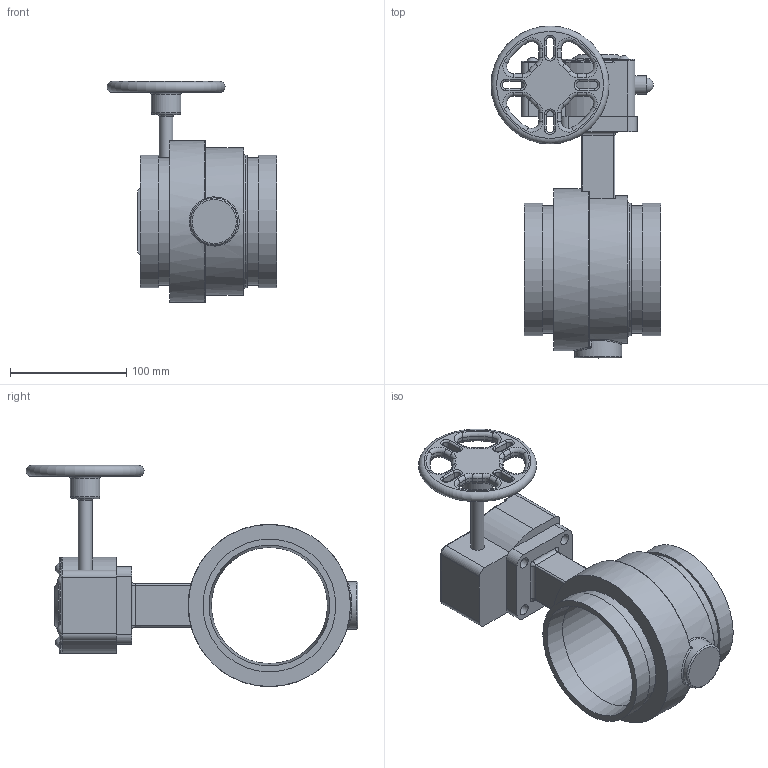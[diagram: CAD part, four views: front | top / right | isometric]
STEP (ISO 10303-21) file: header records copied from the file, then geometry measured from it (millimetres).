
FILE_DESCRIPTION(/* description */ ('VIC SS VALVE BUTTERFLY VIC 300 MASTERSEAL GO SERIES 861 (POTABLE WATER)','CAx-IF Rec.Pracs.---Representation and Presentation of Product Manufacturing Information (PMI)---4.0---2014-10-13'),/* implementation_level */ '2;1');
FILE_NAME(/* name */ 'C:\Users\kkamble\AppData\Roaming\Autodesk\ApplicationPlugins\Back Up\Victaulic_SS_Valve Butterfly Vic-300 Masterseal GO_Series 861 (OGS)-Potable Water\Victaulic_SS_Valve Butterfly Vic-300 Masterseal GO_4 (100).stp',/* time_stamp */ '2020-04-23T17:58:57+05:00',/* author */ ('kkamble'),/* organization */ ('Victaulic'),/* preprocessor_version */ 'ST-DEVELOPER v17.2',/* originating_system */ 'Autodesk Inventor 2019',/* authorisation */ '');
FILE_SCHEMA (('AP242_MANAGED_MODEL_BASED_3D_ENGINEERING_MIM_LF { 1 0 10303 442 1 1 4 }'));
Length unit declared in the file: inch
Products named in the file (3): 861-04.0; 861-04.0_1; 861-04.0_2
Assembly tree (2 placements, depth 2):
  861-04.0
    861-04.0_1
    861-04.0_2
Bounding box: 146.3 x 285.75 x 190.5 mm (x, y, z)
Volume: 1022509.8 mm3; surface area: 174770.8 mm2
Topology: 2 solids, 2 shells, 361 faces, 854 edges, 520 vertices
Faces by surface type: cylinder 141, plane 96, torus 93, bspline 16, sphere 12, cone 3
Full cylindrical faces by diameter (mm): 7.938 x4, 9.652 x5, 10.922 x1, 11.938 x1, 15.875 x2, 25.4 x1, 40.64 x1, 44.45 x1, 54.102 x1, 100.076 x1, 110.084 x2, 114.3 x3, 127 x1, 139.7 x1
Entity records: 11631 total; most frequent: CARTESIAN_POINT 2482, DIRECTION 2015, ORIENTED_EDGE 1696, AXIS2_PLACEMENT_3D 852, EDGE_CURVE 848, VERTEX_POINT 520, CIRCLE 498, EDGE_LOOP 416
